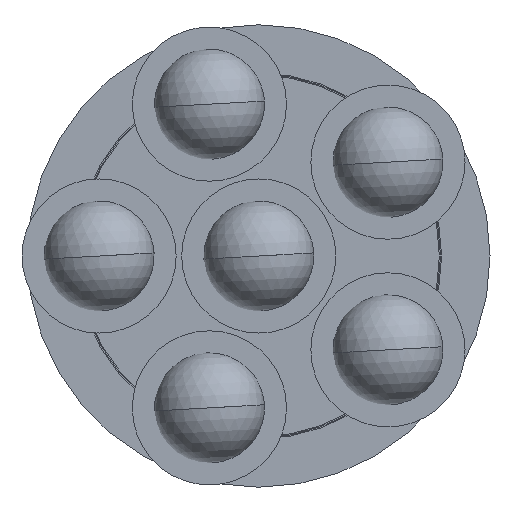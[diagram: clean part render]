
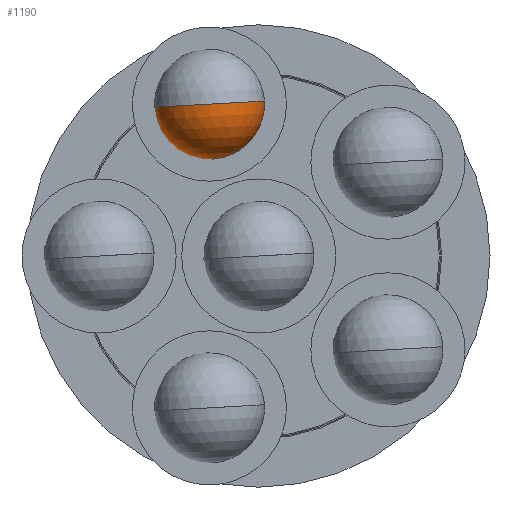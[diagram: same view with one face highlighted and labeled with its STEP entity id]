
A CAD part, front view. The second image highlights one B-rep face of the part: STEP entity #1190.
In plain terms, the highlighted spherical face has radius 50 mm.
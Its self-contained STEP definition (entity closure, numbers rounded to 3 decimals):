
#132 = CIRCLE ( 'NONE', #7539, 24. ) ;
#316 = EDGE_CURVE ( 'NONE', #5549, #549, #7987, .T. ) ;
#549 = VERTEX_POINT ( 'NONE', #2396 ) ;
#934 = CARTESIAN_POINT ( 'NONE',  ( 0., 0., 0. ) ) ;
#1190 = ADVANCED_FACE ( 'NONE', ( #5020 ), #4387, .T. ) ;
#1432 = CARTESIAN_POINT ( 'NONE',  ( 0., 43.863, 0. ) ) ;
#1695 = CARTESIAN_POINT ( 'NONE',  ( 0., 0., 0. ) ) ;
#1968 = DIRECTION ( 'NONE',  ( 0., 0., -1. ) ) ;
#2396 = CARTESIAN_POINT ( 'NONE',  ( 24., 43.863, 0. ) ) ;
#2540 = CIRCLE ( 'NONE', #2650, 50. ) ;
#2650 = AXIS2_PLACEMENT_3D ( 'NONE', #1695, #5621, #6712 ) ;
#2719 = VERTEX_POINT ( 'NONE', #8021 ) ;
#3351 = ORIENTED_EDGE ( 'NONE', *, *, #316, .F. ) ;
#3377 = DIRECTION ( 'NONE',  ( -1., 0., 0. ) ) ;
#3641 = EDGE_LOOP ( 'NONE', ( #3351, #7367, #8033 ) ) ;
#3868 = EDGE_CURVE ( 'NONE', #549, #2719, #132, .T. ) ;
#4387 = SPHERICAL_SURFACE ( 'NONE', #5000, 50. ) ;
#5000 = AXIS2_PLACEMENT_3D ( 'NONE', #6961, #1968, #5862 ) ;
#5020 = FACE_OUTER_BOUND ( 'NONE', #3641, .T. ) ;
#5190 = DIRECTION ( 'NONE',  ( 0., 1., 0. ) ) ;
#5308 = EDGE_CURVE ( 'NONE', #5549, #2719, #2540, .T. ) ;
#5549 = VERTEX_POINT ( 'NONE', #6581 ) ;
#5621 = DIRECTION ( 'NONE',  ( 0., 0., -1. ) ) ;
#5862 = DIRECTION ( 'NONE',  ( 1., 0., 0. ) ) ;
#6084 = DIRECTION ( 'NONE',  ( 0., 0., 1. ) ) ;
#6581 = CARTESIAN_POINT ( 'NONE',  ( 0., -50., 0. ) ) ;
#6712 = DIRECTION ( 'NONE',  ( -1., 0., 0. ) ) ;
#6961 = CARTESIAN_POINT ( 'NONE',  ( 0., 0., 0. ) ) ;
#7367 = ORIENTED_EDGE ( 'NONE', *, *, #5308, .T. ) ;
#7481 = DIRECTION ( 'NONE',  ( 1., 0., 0. ) ) ;
#7539 = AXIS2_PLACEMENT_3D ( 'NONE', #1432, #5190, #3377 ) ;
#7859 = AXIS2_PLACEMENT_3D ( 'NONE', #934, #6084, #7481 ) ;
#7987 = CIRCLE ( 'NONE', #7859, 50. ) ;
#8021 = CARTESIAN_POINT ( 'NONE',  ( -24., 43.863, 0. ) ) ;
#8033 = ORIENTED_EDGE ( 'NONE', *, *, #3868, .F. ) ;
